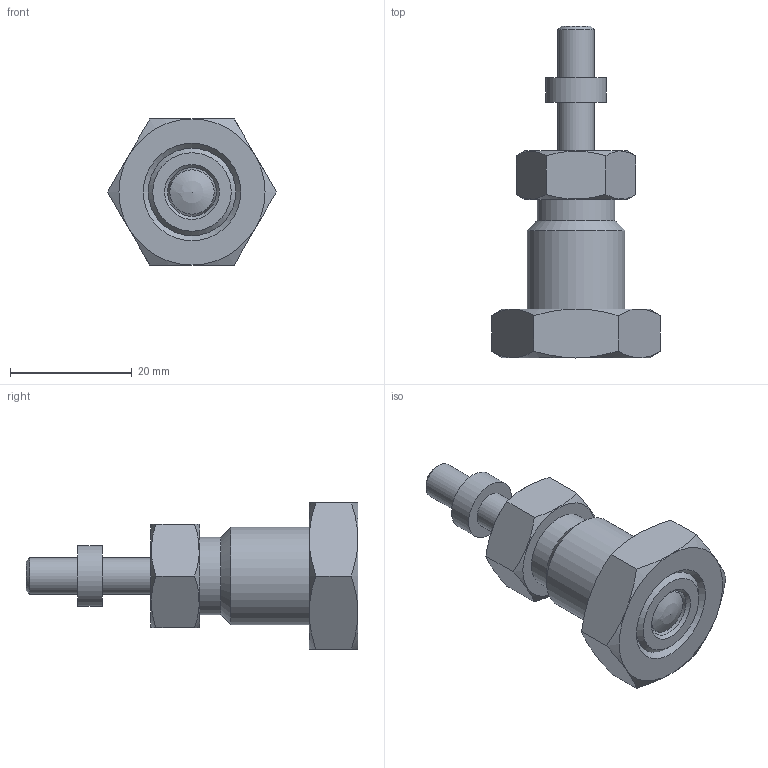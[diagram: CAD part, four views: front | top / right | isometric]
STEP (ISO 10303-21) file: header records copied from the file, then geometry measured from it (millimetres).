
FILE_DESCRIPTION( ( 'STEP AP203' ), '1' );
FILE_NAME( 'C:/Temp/Ganter_Step_05_03_2020/data/3_1/gn817/gn817_ni-rastbolzen/Stainless Steel-Indexing plunger GN 817-8-8-GK-NI (activated-0).stp', '2020-03-12T09:00:04', ( 'License CC BY-ND 4.0' ), ( 'CADENAS' ), ' ', 'PARTsolutions', ' ' );
FILE_SCHEMA( ( 'CONFIG_CONTROL_DESIGN' ) );
Length unit declared in the file: millimetre
Products named in the file (5): Stainless Steel-Indexing plunger GN 817-8-8-GK-NI (activated-0); _Stainless steel-Indexing plunger GN 817-8-8-GK-NI (activated-0)-d; _Stainless steel-Indexing plunger GN 817-8-8-B-NI-2; _Stainless Steel-Indexing plunger GN 817-8-8-G-NI-6; _Stainless steel-Indexing plunger GN 817-8-8-BK-NI (deactivated-0)-3
Assembly tree (4 placements, depth 2):
  Stainless Steel-Indexing plunger GN 817-8-8-GK-NI (activated-0)
    _Stainless steel-Indexing plunger GN 817-8-8-GK-NI (activated-0)-d
    _Stainless steel-Indexing plunger GN 817-8-8-B-NI-2
    _Stainless Steel-Indexing plunger GN 817-8-8-G-NI-6
    _Stainless steel-Indexing plunger GN 817-8-8-BK-NI (deactivated-0)-3
Bounding box: 27.71 x 54.5 x 24 mm (x, y, z)
Volume: 10218 mm3; surface area: 6060.7 mm2
Topology: 3 solids, 3 shells, 56 faces, 113 edges, 68 vertices
Faces by surface type: plane 22, cone 22, cylinder 9, torus 2, sphere 1
Full cylindrical faces by diameter (mm): 6 x3, 8 x2, 10 x1, 12.8 x1, 14.376 x1, 16 x1
Entity records: 1688 total; most frequent: CARTESIAN_POINT 485, DIRECTION 216, ORIENTED_EDGE 178, AXIS2_PLACEMENT_3D 102, EDGE_CURVE 89, EDGE_LOOP 86, FACE_OUTER_BOUND 67, VERTEX_POINT 66
